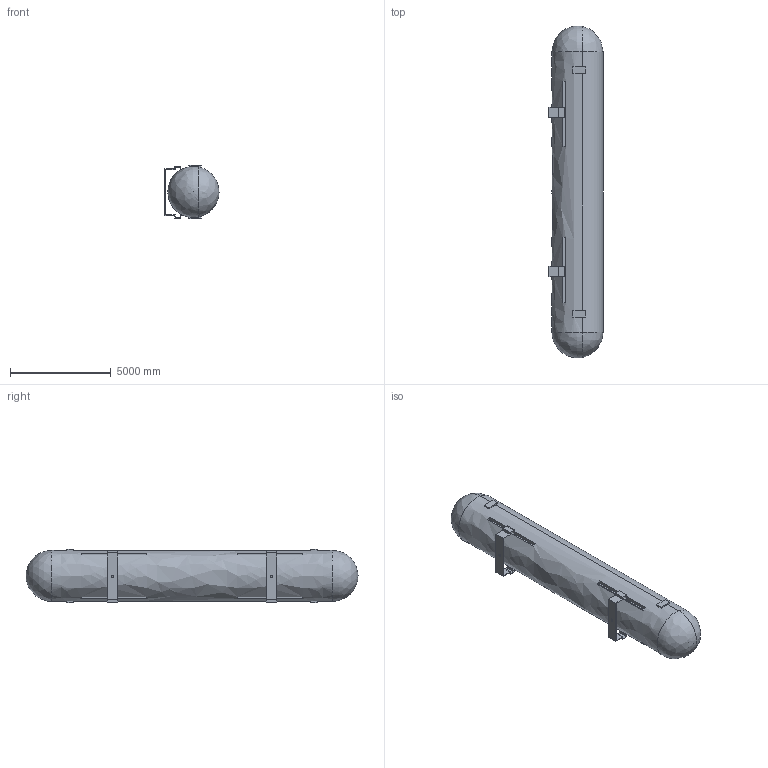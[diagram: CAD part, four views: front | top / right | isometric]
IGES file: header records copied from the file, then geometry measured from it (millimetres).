
Global section: file name: Capsules Joy Wall Lamp-H25.6″,4; native system: 8HAutoCAD 2022 - 简体中文 (Simplified Chinese); preprocessor: Autodesk Translation Framework DWG producer (atf_dwg_producer); organization: unknown; date: 20251105.113835; units: inch
Bounding box: 2687.98 x 16510 x 2636.24 mm (x, y, z)
Volume: 82194015522 mm3; surface area: 249169897.7 mm2
Topology: 11 solids, 11 shells, 121 faces, 291 edges, 194 vertices
Faces by surface type: bspline 121
